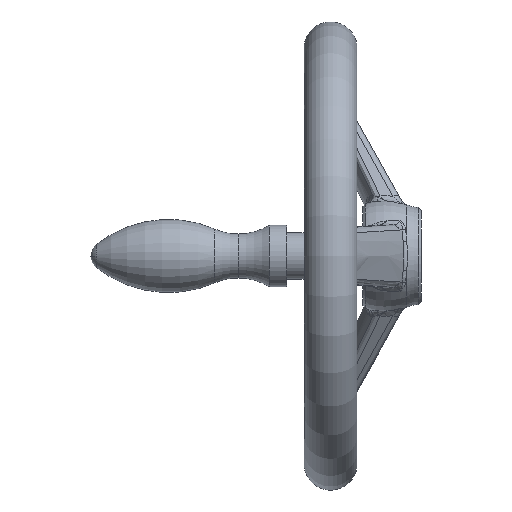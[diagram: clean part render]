
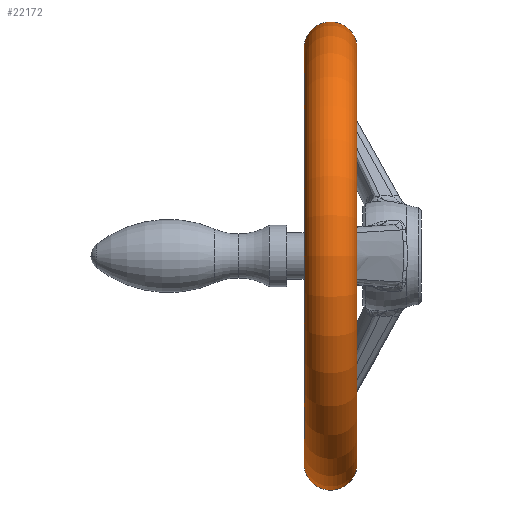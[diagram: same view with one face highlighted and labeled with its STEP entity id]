
A CAD part, left-side view. The second image highlights one B-rep face of the part: STEP entity #22172.
In plain terms, the highlighted toroidal (fillet/blend) face has major radius 70.938 mm and minor radius 9.062 mm.
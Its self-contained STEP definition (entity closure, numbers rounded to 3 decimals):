
#2838 = AXIS2_PLACEMENT_3D ( 'NONE', #3013, #3012, #3010 ) ;
#2946 = FACE_OUTER_BOUND ( 'NONE', #21513, .T. ) ;
#2948 = TOROIDAL_SURFACE ( 'NONE', #2838, 70.938, 9.063 ) ;
#3010 = DIRECTION ( 'NONE',  ( 0., 0., -1. ) ) ;
#3012 = DIRECTION ( 'NONE',  ( 0., -1., 0. ) ) ;
#3013 = CARTESIAN_POINT ( 'NONE',  ( 0., 31., 0. ) ) ;
#14441 = VERTEX_POINT ( 'NONE', #20131 ) ;
#14477 = VERTEX_POINT ( 'NONE', #20158 ) ;
#14479 = EDGE_CURVE ( 'NONE', #14659, #14441, #20162, .T. ) ;
#14482 = EDGE_CURVE ( 'NONE', #14441, #14477, #20108, .T. ) ;
#14656 = VERTEX_POINT ( 'NONE', #20701 ) ;
#14659 = VERTEX_POINT ( 'NONE', #20735 ) ;
#14660 = EDGE_CURVE ( 'NONE', #14659, #14656, #20695, .T. ) ;
#20108 = CIRCLE ( 'NONE', #20153, 72. ) ;
#20131 = CARTESIAN_POINT ( 'NONE',  ( 0., 22., 72. ) ) ;
#20143 = DIRECTION ( 'NONE',  ( 0., 0., -1. ) ) ;
#20144 = DIRECTION ( 'NONE',  ( 0., -1., 0. ) ) ;
#20145 = CARTESIAN_POINT ( 'NONE',  ( 0., 22., 0. ) ) ;
#20149 = DIRECTION ( 'NONE',  ( 0., 0., -1. ) ) ;
#20150 = DIRECTION ( 'NONE',  ( 1., 0., 0. ) ) ;
#20151 = CARTESIAN_POINT ( 'NONE',  ( 0., 31., 70.938 ) ) ;
#20153 = AXIS2_PLACEMENT_3D ( 'NONE', #20145, #20144, #20143 ) ;
#20155 = AXIS2_PLACEMENT_3D ( 'NONE', #20151, #20150, #20149 ) ;
#20158 = CARTESIAN_POINT ( 'NONE',  ( 0., 22., -72. ) ) ;
#20162 = CIRCLE ( 'NONE', #20155, 9.063 ) ;
#20695 = CIRCLE ( 'NONE', #20733, 72. ) ;
#20701 = CARTESIAN_POINT ( 'NONE',  ( 0., 40., -72. ) ) ;
#20730 = DIRECTION ( 'NONE',  ( 0., 0., -1. ) ) ;
#20731 = DIRECTION ( 'NONE',  ( 0., -1., 0. ) ) ;
#20732 = CARTESIAN_POINT ( 'NONE',  ( 0., 40., 0. ) ) ;
#20733 = AXIS2_PLACEMENT_3D ( 'NONE', #20732, #20731, #20730 ) ;
#20735 = CARTESIAN_POINT ( 'NONE',  ( 0., 40., 72. ) ) ;
#21153 = CIRCLE ( 'NONE', #21158, 9.063 ) ;
#21158 = AXIS2_PLACEMENT_3D ( 'NONE', #21214, #21232, #21231 ) ;
#21214 = CARTESIAN_POINT ( 'NONE',  ( 0., 31., -70.938 ) ) ;
#21231 = DIRECTION ( 'NONE',  ( 0., 0., 1. ) ) ;
#21232 = DIRECTION ( 'NONE',  ( -1., 0., 0. ) ) ;
#21513 = EDGE_LOOP ( 'NONE', ( #22109, #22146, #22164, #22162 ) ) ;
#21961 = EDGE_CURVE ( 'NONE', #14656, #14477, #21153, .T. ) ;
#22109 = ORIENTED_EDGE ( 'NONE', *, *, #14479, .F. ) ;
#22146 = ORIENTED_EDGE ( 'NONE', *, *, #14660, .T. ) ;
#22162 = ORIENTED_EDGE ( 'NONE', *, *, #14482, .F. ) ;
#22164 = ORIENTED_EDGE ( 'NONE', *, *, #21961, .T. ) ;
#22172 = ADVANCED_FACE ( 'NONE', ( #2946 ), #2948, .T. ) ;
